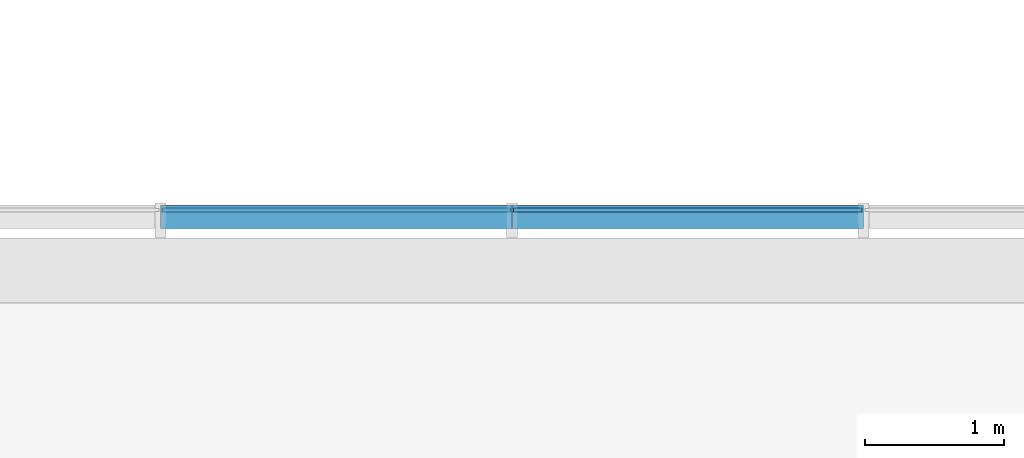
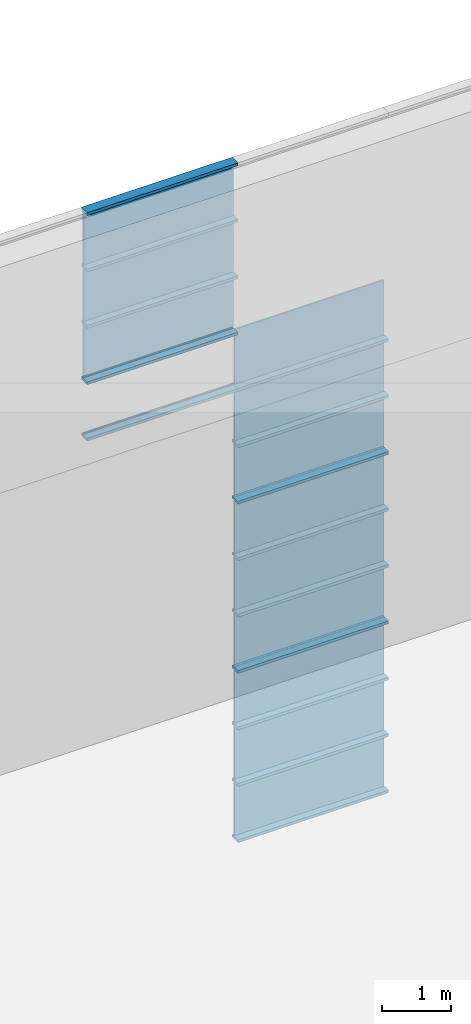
# One storey, part 47 of 105: 29 building element parts, 4 elements without a shape of their own.
"""IFC4 building model written with IfcOpenShell, lengths in millimetres."""

from ifc_helpers import new_model, entity, si_unit, converted_unit, derived_unit, direction, frame, origin_with_axes, place, context, subcontext, project, spatial, triangles, material, element, aggregate, save


model = new_model("IFC4")

# Units and contexts
model_context = context("Model", 3, precision=1e-05, world=origin_with_axes(), true_north=direction((0.0, 1.0)))
body_context = subcontext(model_context, "Body", "Model", "MODEL_VIEW")
ifc_project = project(units=[si_unit("LENGTHUNIT", "METRE", prefix="MILLI"), si_unit("AREAUNIT", "SQUARE_METRE"), si_unit("VOLUMEUNIT", "CUBIC_METRE"), converted_unit("PLANEANGLEUNIT", "DEGREE", entity("IfcLengthMeasure", 0.017453), si_unit("PLANEANGLEUNIT", "RADIAN"), dimensions=[0, 0, 0, 0, 0, 0, 0]), si_unit("SOLIDANGLEUNIT", "STERADIAN"), si_unit("MASSUNIT", "GRAM"), si_unit("TIMEUNIT", "SECOND"), si_unit("THERMODYNAMICTEMPERATUREUNIT", "DEGREE_CELSIUS"), si_unit("LUMINOUSINTENSITYUNIT", "LUMEN"), si_unit("POWERUNIT", "WATT"), derived_unit("THERMALTRANSMITTANCEUNIT", [(si_unit("POWERUNIT", "WATT"), 1), (si_unit("THERMODYNAMICTEMPERATUREUNIT", "KELVIN"), -1), (si_unit("AREAUNIT", "SQUARE_METRE"), -1)])], contexts=[model_context])

# Site, building, storey
site_placement = place(None, origin_with_axes())
site = spatial("IfcSite", under=ifc_project, at=site_placement, Name="Default Site", CompositionType="ELEMENT")
building_placement = place(site_placement, origin_with_axes())
building = spatial("IfcBuilding", under=site, at=building_placement, Name="Default Building", CompositionType="ELEMENT")
storey_placement = place(building_placement, origin_with_axes())
storey = spatial("IfcBuildingStorey", under=building, at=storey_placement, Name="OG - Story", CompositionType="ELEMENT", Elevation=0.0)

# Curtain wall, building element parts
curtain_wall_1_placement = place(storey_placement, origin_with_axes())
curtain_wall_1 = element("IfcCurtainWall", 1, at=curtain_wall_1_placement, inside=storey, Name="Fassade-004", PredefinedType="NOTDEFINED")
ifc_material_1 = material(Name="Normalglas")
building_element_part_1_placement = place(curtain_wall_1_placement, frame((33014.549222, -4389.262838, 0.0), z_axis=(0.0, 0.0, 1.0), x_axis=(1.0, 0.0, 0.0)))
building_element_part_1 = element("IfcBuildingElementPart", 2, at=building_element_part_1_placement, material=ifc_material_1, Name="Normalglas", PredefinedType="NOTDEFINED", context=body_context, shape_type="Tessellation", body=[
    triangles([(21463.684, -14.999, 995.0), (21463.684, 15.0, 995.0), (18957.368, 15.0, 995.0), (18957.368, -14.999, 995.0), (21463.684, -14.999, 5.0), (21463.684, 15.0, 5.0), (18957.368, 15.0, 5.0), (18957.368, -14.999, 5.0)], [[1, 2, 3], [1, 3, 4], [5, 6, 2], [5, 2, 1], [2, 6, 7], [2, 7, 3], [4, 3, 7], [4, 7, 8], [1, 4, 8], [1, 8, 5], [8, 7, 6], [8, 6, 5]], closed=False),
])
building_element_part_2_placement = place(curtain_wall_1_placement, frame((33014.549222, -4389.262838, 0.0), z_axis=(0.0, 0.0, 1.0), x_axis=(1.0, 0.0, 0.0)))
building_element_part_2 = element("IfcBuildingElementPart", 3, at=building_element_part_2_placement, material=ifc_material_1, Name="Normalglas", PredefinedType="NOTDEFINED", context=body_context, shape_type="Tessellation", body=[
    triangles([(21463.684, -14.999, 1995.0), (21463.684, 15.0, 1995.0), (18957.368, 15.0, 1995.0), (18957.368, -14.999, 1995.0), (21463.684, -14.999, 1005.0), (21463.684, 15.0, 1005.0), (18957.368, 15.0, 1005.0), (18957.368, -14.999, 1005.0)], [[1, 2, 3], [1, 3, 4], [5, 6, 2], [5, 2, 1], [2, 6, 7], [2, 7, 3], [4, 3, 7], [4, 7, 8], [1, 4, 8], [1, 8, 5], [8, 7, 6], [8, 6, 5]], closed=False),
])
building_element_part_3_placement = place(curtain_wall_1_placement, frame((33014.549222, -4389.262838, 0.0), z_axis=(0.0, 0.0, 1.0), x_axis=(1.0, 0.0, 0.0)))
building_element_part_3 = element("IfcBuildingElementPart", 4, at=building_element_part_3_placement, material=ifc_material_1, Name="Normalglas", PredefinedType="NOTDEFINED", context=body_context, shape_type="Tessellation", body=[
    triangles([(21463.684, -14.999, 2995.0), (21463.684, 15.0, 2995.0), (18957.368, 15.0, 2995.0), (18957.368, -14.999, 2995.0), (21463.684, -14.999, 2005.0), (21463.684, 15.0, 2005.0), (18957.368, 15.0, 2005.0), (18957.368, -14.999, 2005.0)], [[1, 2, 3], [1, 3, 4], [5, 6, 2], [5, 2, 1], [2, 6, 7], [2, 7, 3], [4, 3, 7], [4, 7, 8], [1, 4, 8], [1, 8, 5], [8, 7, 6], [8, 6, 5]], closed=False),
])
ifc_material_2 = material(Name="Blech")
building_element_part_4_placement = place(curtain_wall_1_placement, frame((33014.549222, -4389.262838, 0.0), z_axis=(0.0, 0.0, 1.0), x_axis=(1.0, 0.0, 0.0)))
building_element_part_4 = element("IfcBuildingElementPart", 5, at=building_element_part_4_placement, material=ifc_material_2, Name="Blech", PredefinedType="NOTDEFINED", context=body_context, shape_type="Tessellation", body=[
    triangles([(21473.684, 35.0, -24.999), (21473.684, 35.0, 25.0), (21473.684, 15.0, 25.0), (21473.684, 15.0, 5.0), (21473.684, -14.999, 5.0), (21473.684, -132.999, 25.0), (21473.684, -132.999, -24.999), (21473.684, -14.999, 25.0), (18947.368, -14.999, 5.0), (18947.368, -14.999, 25.0), (18947.368, -132.999, 25.0), (18947.368, -132.999, -24.999), (18947.368, 35.0, -24.999), (18947.368, 35.0, 25.0), (18947.368, 15.0, 25.0), (18947.368, 15.0, 5.0)], [[1, 2, 3], [1, 3, 4], [1, 4, 5], [1, 5, 6], [1, 6, 7], [8, 6, 5], [5, 9, 10], [5, 10, 8], [10, 11, 6], [10, 6, 8], [11, 12, 7], [11, 7, 6], [12, 13, 1], [12, 1, 7], [13, 14, 2], [13, 2, 1], [3, 2, 14], [3, 14, 15], [15, 16, 4], [15, 4, 3], [4, 16, 9], [4, 9, 5], [15, 16, 13], [13, 16, 9], [13, 9, 11], [11, 9, 10], [13, 11, 12], [15, 13, 14]], closed=False),
])
building_element_part_5_placement = place(curtain_wall_1_placement, frame((33014.549222, -4389.262838, 0.0), z_axis=(0.0, 0.0, 1.0), x_axis=(1.0, 0.0, 0.0)))
building_element_part_5 = element("IfcBuildingElementPart", 6, at=building_element_part_5_placement, material=ifc_material_2, Name="Blech", PredefinedType="NOTDEFINED", context=body_context, shape_type="Tessellation", body=[
    triangles([(21473.684, 35.0, 975.0), (21473.684, 15.0, 975.0), (21473.684, 35.0, 1025.0), (21473.684, 15.0, 995.0), (21473.684, 15.0, 1005.0), (21473.684, -14.999, 995.0), (21473.684, -14.999, 1005.0), (21473.684, -14.999, 1025.0), (21473.684, -14.999, 975.0), (21473.684, -132.999, 975.0), (21473.684, -132.999, 1025.0), (21473.684, 15.0, 1025.0), (18947.368, -14.999, 995.0), (18947.368, 15.0, 995.0), (18947.368, 15.0, 975.0), (18947.368, 35.0, 975.0), (18947.368, 35.0, 1025.0), (18947.368, 15.0, 1025.0), (18947.368, 15.0, 1005.0), (18947.368, -14.999, 1005.0), (18947.368, -14.999, 1025.0), (18947.368, -132.999, 1025.0), (18947.368, -132.999, 975.0), (18947.368, -14.999, 975.0)], [[1, 2, 3], [3, 2, 4], [3, 4, 5], [5, 4, 6], [5, 6, 7], [8, 9, 10], [8, 10, 11], [3, 5, 12], [6, 13, 14], [6, 14, 4], [4, 14, 15], [4, 15, 2], [15, 16, 1], [15, 1, 2], [1, 16, 17], [1, 17, 3], [18, 12, 3], [18, 3, 17], [12, 18, 19], [12, 19, 5], [7, 5, 19], [7, 19, 20], [8, 7, 20], [8, 20, 21], [8, 21, 22], [8, 22, 11], [11, 22, 23], [11, 23, 10], [9, 10, 23], [9, 23, 24], [9, 24, 13], [9, 13, 6], [17, 18, 16], [16, 18, 19], [16, 19, 14], [14, 19, 20], [14, 20, 13], [24, 21, 22], [24, 22, 23], [16, 14, 15]], closed=False),
])
building_element_part_6_placement = place(curtain_wall_1_placement, frame((33014.549222, -4389.262838, 0.0), z_axis=(0.0, 0.0, 1.0), x_axis=(1.0, 0.0, 0.0)))
building_element_part_6 = element("IfcBuildingElementPart", 7, at=building_element_part_6_placement, material=ifc_material_2, Name="Blech", PredefinedType="NOTDEFINED", context=body_context, shape_type="Tessellation", body=[
    triangles([(21473.684, 35.0, 1975.0), (21473.684, 15.0, 1975.0), (21473.684, 35.0, 2025.0), (21473.684, 15.0, 1995.0), (21473.684, 15.0, 2005.0), (21473.684, -14.999, 1995.0), (21473.684, -14.999, 2005.0), (21473.684, -14.999, 2025.0), (21473.684, -14.999, 1975.0), (21473.684, -132.999, 1975.0), (21473.684, -132.999, 2025.0), (21473.684, 15.0, 2025.0), (18947.368, -14.999, 1995.0), (18947.368, 15.0, 1995.0), (18947.368, 15.0, 1975.0), (18947.368, 35.0, 1975.0), (18947.368, 35.0, 2025.0), (18947.368, 15.0, 2025.0), (18947.368, 15.0, 2005.0), (18947.368, -14.999, 2005.0), (18947.368, -14.999, 2025.0), (18947.368, -132.999, 2025.0), (18947.368, -132.999, 1975.0), (18947.368, -14.999, 1975.0)], [[1, 2, 3], [3, 2, 4], [3, 4, 5], [5, 4, 6], [5, 6, 7], [8, 9, 10], [8, 10, 11], [3, 5, 12], [6, 13, 14], [6, 14, 4], [4, 14, 15], [4, 15, 2], [15, 16, 1], [15, 1, 2], [1, 16, 17], [1, 17, 3], [18, 12, 3], [18, 3, 17], [12, 18, 19], [12, 19, 5], [7, 5, 19], [7, 19, 20], [8, 7, 20], [8, 20, 21], [8, 21, 22], [8, 22, 11], [11, 22, 23], [11, 23, 10], [9, 10, 23], [9, 23, 24], [9, 24, 13], [9, 13, 6], [17, 18, 16], [16, 18, 19], [16, 19, 14], [14, 19, 20], [14, 20, 13], [24, 21, 22], [24, 22, 23], [16, 14, 15]], closed=False),
])
building_element_part_7_placement = place(curtain_wall_1_placement, frame((33014.549222, -4389.262838, 0.0), z_axis=(0.0, 0.0, 1.0), x_axis=(1.0, 0.0, 0.0)))
building_element_part_7 = element("IfcBuildingElementPart", 8, at=building_element_part_7_placement, material=ifc_material_2, Name="Blech", PredefinedType="NOTDEFINED", context=body_context, shape_type="Tessellation", body=[
    triangles([(21473.684, 15.0, 2975.0), (21473.684, 15.0, 2995.0), (21473.684, 35.0, 3025.0), (21473.684, -14.999, 2995.0), (21473.684, -132.999, 2975.0), (21473.684, -14.999, 2975.0), (21473.684, -132.999, 3025.0), (21473.684, 35.0, 2975.0), (18947.368, -14.999, 2995.0), (18947.368, 15.0, 2995.0), (18947.368, 15.0, 2975.0), (18947.368, 35.0, 2975.0), (18947.368, 35.0, 3025.0), (18947.368, -132.999, 3025.0), (18947.368, -132.999, 2975.0), (18947.368, -14.999, 2975.0)], [[1, 2, 3], [3, 2, 4], [3, 4, 5], [5, 4, 6], [3, 5, 7], [1, 3, 8], [2, 4, 9], [2, 9, 10], [11, 1, 2], [11, 2, 10], [1, 11, 12], [1, 12, 8], [13, 3, 8], [13, 8, 12], [14, 7, 3], [14, 3, 13], [15, 5, 7], [15, 7, 14], [16, 6, 5], [16, 5, 15], [4, 6, 16], [4, 16, 9], [13, 12, 11], [13, 11, 10], [13, 10, 9], [13, 9, 15], [13, 15, 14], [16, 15, 9]], closed=False),
])
aggregate(curtain_wall_1, [building_element_part_1, building_element_part_2, building_element_part_3, building_element_part_4, building_element_part_5, building_element_part_6, building_element_part_7])

curtain_wall_2_placement = place(storey_placement, origin_with_axes())
curtain_wall_2 = element("IfcCurtainWall", 9, at=curtain_wall_2_placement, inside=storey, Name="Fassade-004", PredefinedType="NOTDEFINED")
building_element_part_8_placement = place(curtain_wall_2_placement, frame((33014.549222, -4389.262838, 3000.0), z_axis=(0.0, 0.0, 1.0), x_axis=(1.0, 0.0, 0.0)))
building_element_part_8 = element("IfcBuildingElementPart", 10, at=building_element_part_8_placement, material=ifc_material_1, Name="Normalglas", PredefinedType="NOTDEFINED", context=body_context, shape_type="Tessellation", body=[
    triangles([(21463.684, -14.999, 995.0), (21463.684, 15.0, 995.0), (18957.368, 15.0, 995.0), (18957.368, -14.999, 995.0), (21463.684, -14.999, 5.0), (21463.684, 15.0, 5.0), (18957.368, 15.0, 5.0), (18957.368, -14.999, 5.0)], [[1, 2, 3], [1, 3, 4], [5, 6, 2], [5, 2, 1], [2, 6, 7], [2, 7, 3], [4, 3, 7], [4, 7, 8], [1, 4, 8], [1, 8, 5], [8, 7, 6], [8, 6, 5]], closed=False),
])
building_element_part_9_placement = place(curtain_wall_2_placement, frame((33014.549222, -4389.262838, 3000.0), z_axis=(0.0, 0.0, 1.0), x_axis=(1.0, 0.0, 0.0)))
building_element_part_9 = element("IfcBuildingElementPart", 11, at=building_element_part_9_placement, material=ifc_material_1, Name="Normalglas", PredefinedType="NOTDEFINED", context=body_context, shape_type="Tessellation", body=[
    triangles([(21463.684, -14.999, 1995.0), (21463.684, 15.0, 1995.0), (18957.368, 15.0, 1995.0), (18957.368, -14.999, 1995.0), (21463.684, -14.999, 1005.0), (21463.684, 15.0, 1005.0), (18957.368, 15.0, 1005.0), (18957.368, -14.999, 1005.0)], [[1, 2, 3], [1, 3, 4], [5, 6, 2], [5, 2, 1], [2, 6, 7], [2, 7, 3], [4, 3, 7], [4, 7, 8], [1, 4, 8], [1, 8, 5], [8, 7, 6], [8, 6, 5]], closed=False),
])
building_element_part_10_placement = place(curtain_wall_2_placement, frame((33014.549222, -4389.262838, 3000.0), z_axis=(0.0, 0.0, 1.0), x_axis=(1.0, 0.0, 0.0)))
building_element_part_10 = element("IfcBuildingElementPart", 12, at=building_element_part_10_placement, material=ifc_material_1, Name="Normalglas", PredefinedType="NOTDEFINED", context=body_context, shape_type="Tessellation", body=[
    triangles([(21463.684, -14.999, 2995.0), (21463.684, 15.0, 2995.0), (18957.368, 15.0, 2995.0), (18957.368, -14.999, 2995.0), (21463.684, -14.999, 2005.0), (21463.684, 15.0, 2005.0), (18957.368, 15.0, 2005.0), (18957.368, -14.999, 2005.0)], [[1, 2, 3], [1, 3, 4], [5, 6, 2], [5, 2, 1], [2, 6, 7], [2, 7, 3], [4, 3, 7], [4, 7, 8], [1, 4, 8], [1, 8, 5], [8, 7, 6], [8, 6, 5]], closed=False),
])
building_element_part_11_placement = place(curtain_wall_2_placement, frame((33014.549222, -4389.262838, 3000.0), z_axis=(0.0, 0.0, 1.0), x_axis=(1.0, 0.0, 0.0)))
building_element_part_11 = element("IfcBuildingElementPart", 13, at=building_element_part_11_placement, material=ifc_material_2, Name="Blech", PredefinedType="NOTDEFINED", context=body_context, shape_type="Tessellation", body=[
    triangles([(21473.684, 35.0, -24.999), (21473.684, 35.0, 25.0), (21473.684, 15.0, 25.0), (21473.684, 15.0, 5.0), (21473.684, -14.999, 5.0), (21473.684, -132.999, 25.0), (21473.684, -132.999, -24.999), (21473.684, -14.999, 25.0), (18947.368, -14.999, 5.0), (18947.368, -14.999, 25.0), (18947.368, -132.999, 25.0), (18947.368, -132.999, -24.999), (18947.368, 35.0, -24.999), (18947.368, 35.0, 25.0), (18947.368, 15.0, 25.0), (18947.368, 15.0, 5.0)], [[1, 2, 3], [1, 3, 4], [1, 4, 5], [1, 5, 6], [1, 6, 7], [8, 6, 5], [5, 9, 10], [5, 10, 8], [10, 11, 6], [10, 6, 8], [11, 12, 7], [11, 7, 6], [12, 13, 1], [12, 1, 7], [13, 14, 2], [13, 2, 1], [3, 2, 14], [3, 14, 15], [15, 16, 4], [15, 4, 3], [4, 16, 9], [4, 9, 5], [15, 16, 13], [13, 16, 9], [13, 9, 11], [11, 9, 10], [13, 11, 12], [15, 13, 14]], closed=False),
])
building_element_part_12_placement = place(curtain_wall_2_placement, frame((33014.549222, -4389.262838, 3000.0), z_axis=(0.0, 0.0, 1.0), x_axis=(1.0, 0.0, 0.0)))
building_element_part_12 = element("IfcBuildingElementPart", 14, at=building_element_part_12_placement, material=ifc_material_2, Name="Blech", PredefinedType="NOTDEFINED", context=body_context, shape_type="Tessellation", body=[
    triangles([(21473.684, 35.0, 975.0), (21473.684, 15.0, 975.0), (21473.684, 35.0, 1025.0), (21473.684, 15.0, 995.0), (21473.684, 15.0, 1005.0), (21473.684, -14.999, 995.0), (21473.684, -14.999, 1005.0), (21473.684, -14.999, 1025.0), (21473.684, -14.999, 975.0), (21473.684, -132.999, 975.0), (21473.684, -132.999, 1025.0), (21473.684, 15.0, 1025.0), (18947.368, -14.999, 995.0), (18947.368, 15.0, 995.0), (18947.368, 15.0, 975.0), (18947.368, 35.0, 975.0), (18947.368, 35.0, 1025.0), (18947.368, 15.0, 1025.0), (18947.368, 15.0, 1005.0), (18947.368, -14.999, 1005.0), (18947.368, -14.999, 1025.0), (18947.368, -132.999, 1025.0), (18947.368, -132.999, 975.0), (18947.368, -14.999, 975.0)], [[1, 2, 3], [3, 2, 4], [3, 4, 5], [5, 4, 6], [5, 6, 7], [8, 9, 10], [8, 10, 11], [3, 5, 12], [6, 13, 14], [6, 14, 4], [4, 14, 15], [4, 15, 2], [15, 16, 1], [15, 1, 2], [1, 16, 17], [1, 17, 3], [18, 12, 3], [18, 3, 17], [12, 18, 19], [12, 19, 5], [7, 5, 19], [7, 19, 20], [8, 7, 20], [8, 20, 21], [8, 21, 22], [8, 22, 11], [11, 22, 23], [11, 23, 10], [9, 10, 23], [9, 23, 24], [9, 24, 13], [9, 13, 6], [17, 18, 16], [16, 18, 19], [16, 19, 14], [14, 19, 20], [14, 20, 13], [24, 21, 22], [24, 22, 23], [16, 14, 15]], closed=False),
])
building_element_part_13_placement = place(curtain_wall_2_placement, frame((33014.549222, -4389.262838, 3000.0), z_axis=(0.0, 0.0, 1.0), x_axis=(1.0, 0.0, 0.0)))
building_element_part_13 = element("IfcBuildingElementPart", 15, at=building_element_part_13_placement, material=ifc_material_2, Name="Blech", PredefinedType="NOTDEFINED", context=body_context, shape_type="Tessellation", body=[
    triangles([(21473.684, 35.0, 1975.0), (21473.684, 15.0, 1975.0), (21473.684, 35.0, 2025.0), (21473.684, 15.0, 1995.0), (21473.684, 15.0, 2005.0), (21473.684, -14.999, 1995.0), (21473.684, -14.999, 2005.0), (21473.684, -14.999, 2025.0), (21473.684, -14.999, 1975.0), (21473.684, -132.999, 1975.0), (21473.684, -132.999, 2025.0), (21473.684, 15.0, 2025.0), (18947.368, -14.999, 1995.0), (18947.368, 15.0, 1995.0), (18947.368, 15.0, 1975.0), (18947.368, 35.0, 1975.0), (18947.368, 35.0, 2025.0), (18947.368, 15.0, 2025.0), (18947.368, 15.0, 2005.0), (18947.368, -14.999, 2005.0), (18947.368, -14.999, 2025.0), (18947.368, -132.999, 2025.0), (18947.368, -132.999, 1975.0), (18947.368, -14.999, 1975.0)], [[1, 2, 3], [3, 2, 4], [3, 4, 5], [5, 4, 6], [5, 6, 7], [8, 9, 10], [8, 10, 11], [3, 5, 12], [6, 13, 14], [6, 14, 4], [4, 14, 15], [4, 15, 2], [15, 16, 1], [15, 1, 2], [1, 16, 17], [1, 17, 3], [18, 12, 3], [18, 3, 17], [12, 18, 19], [12, 19, 5], [7, 5, 19], [7, 19, 20], [8, 7, 20], [8, 20, 21], [8, 21, 22], [8, 22, 11], [11, 22, 23], [11, 23, 10], [9, 10, 23], [9, 23, 24], [9, 24, 13], [9, 13, 6], [17, 18, 16], [16, 18, 19], [16, 19, 14], [14, 19, 20], [14, 20, 13], [24, 21, 22], [24, 22, 23], [16, 14, 15]], closed=False),
])
building_element_part_14_placement = place(curtain_wall_2_placement, frame((33014.549222, -4389.262838, 3000.0), z_axis=(0.0, 0.0, 1.0), x_axis=(1.0, 0.0, 0.0)))
building_element_part_14 = element("IfcBuildingElementPart", 16, at=building_element_part_14_placement, material=ifc_material_2, Name="Blech", PredefinedType="NOTDEFINED", context=body_context, shape_type="Tessellation", body=[
    triangles([(21473.684, 15.0, 2975.0), (21473.684, 15.0, 2995.0), (21473.684, 35.0, 3025.0), (21473.684, -14.999, 2995.0), (21473.684, -132.999, 2975.0), (21473.684, -14.999, 2975.0), (21473.684, -132.999, 3025.0), (21473.684, 35.0, 2975.0), (18947.368, -14.999, 2995.0), (18947.368, 15.0, 2995.0), (18947.368, 15.0, 2975.0), (18947.368, 35.0, 2975.0), (18947.368, 35.0, 3025.0), (18947.368, -132.999, 3025.0), (18947.368, -132.999, 2975.0), (18947.368, -14.999, 2975.0)], [[1, 2, 3], [3, 2, 4], [3, 4, 5], [5, 4, 6], [3, 5, 7], [1, 3, 8], [2, 4, 9], [2, 9, 10], [11, 1, 2], [11, 2, 10], [1, 11, 12], [1, 12, 8], [13, 3, 8], [13, 8, 12], [14, 7, 3], [14, 3, 13], [15, 5, 7], [15, 7, 14], [16, 6, 5], [16, 5, 15], [4, 6, 16], [4, 16, 9], [13, 12, 11], [13, 11, 10], [13, 10, 9], [13, 9, 15], [13, 15, 14], [16, 15, 9]], closed=False),
])
aggregate(curtain_wall_2, [building_element_part_8, building_element_part_9, building_element_part_10, building_element_part_11, building_element_part_12, building_element_part_13, building_element_part_14])

curtain_wall_3_placement = place(storey_placement, origin_with_axes())
curtain_wall_3 = element("IfcCurtainWall", 17, at=curtain_wall_3_placement, inside=storey, Name="Fassade-004", PredefinedType="NOTDEFINED")
building_element_part_15_placement = place(curtain_wall_3_placement, frame((33014.549222, -4389.262838, 6000.0), z_axis=(0.0, 0.0, 1.0), x_axis=(1.0, 0.0, 0.0)))
building_element_part_15 = element("IfcBuildingElementPart", 18, at=building_element_part_15_placement, material=ifc_material_1, Name="Normalglas", PredefinedType="NOTDEFINED", context=body_context, shape_type="Tessellation", body=[
    triangles([(21463.684, -14.999, 995.0), (21463.684, 15.0, 995.0), (18957.368, 15.0, 995.0), (18957.368, -14.999, 995.0), (21463.684, -14.999, 5.0), (21463.684, 15.0, 5.0), (18957.368, 15.0, 5.0), (18957.368, -14.999, 5.0)], [[1, 2, 3], [1, 3, 4], [5, 6, 2], [5, 2, 1], [2, 6, 7], [2, 7, 3], [4, 3, 7], [4, 7, 8], [1, 4, 8], [1, 8, 5], [8, 7, 6], [8, 6, 5]], closed=False),
])
building_element_part_16_placement = place(curtain_wall_3_placement, frame((33014.549222, -4389.262838, 6000.0), z_axis=(0.0, 0.0, 1.0), x_axis=(1.0, 0.0, 0.0)))
building_element_part_16 = element("IfcBuildingElementPart", 19, at=building_element_part_16_placement, material=ifc_material_1, Name="Normalglas", PredefinedType="NOTDEFINED", context=body_context, shape_type="Tessellation", body=[
    triangles([(21463.684, -14.999, 1995.0), (21463.684, 15.0, 1995.0), (18957.368, 15.0, 1995.0), (18957.368, -14.999, 1995.0), (21463.684, -14.999, 1005.0), (21463.684, 15.0, 1005.0), (18957.368, 15.0, 1005.0), (18957.368, -14.999, 1005.0)], [[1, 2, 3], [1, 3, 4], [5, 6, 2], [5, 2, 1], [2, 6, 7], [2, 7, 3], [4, 3, 7], [4, 7, 8], [1, 4, 8], [1, 8, 5], [8, 7, 6], [8, 6, 5]], closed=False),
])
building_element_part_17_placement = place(curtain_wall_3_placement, frame((33014.549222, -4389.262838, 6000.0), z_axis=(0.0, 0.0, 1.0), x_axis=(1.0, 0.0, 0.0)))
building_element_part_17 = element("IfcBuildingElementPart", 20, at=building_element_part_17_placement, material=ifc_material_1, Name="Normalglas", PredefinedType="NOTDEFINED", context=body_context, shape_type="Tessellation", body=[
    triangles([(21463.684, -14.999, 2995.0), (21463.684, 15.0, 2995.0), (18957.368, 15.0, 2995.0), (18957.368, -14.999, 2995.0), (21463.684, -14.999, 2005.0), (21463.684, 15.0, 2005.0), (18957.368, 15.0, 2005.0), (18957.368, -14.999, 2005.0)], [[1, 2, 3], [1, 3, 4], [5, 6, 2], [5, 2, 1], [2, 6, 7], [2, 7, 3], [4, 3, 7], [4, 7, 8], [1, 4, 8], [1, 8, 5], [8, 7, 6], [8, 6, 5]], closed=False),
])
building_element_part_18_placement = place(curtain_wall_3_placement, frame((33014.549222, -4389.262838, 6000.0), z_axis=(0.0, 0.0, 1.0), x_axis=(1.0, 0.0, 0.0)))
building_element_part_18 = element("IfcBuildingElementPart", 21, at=building_element_part_18_placement, material=ifc_material_2, Name="Blech", PredefinedType="NOTDEFINED", context=body_context, shape_type="Tessellation", body=[
    triangles([(21473.684, 35.0, -24.999), (21473.684, 35.0, 25.0), (21473.684, 15.0, 25.0), (21473.684, 15.0, 5.0), (21473.684, -14.999, 5.0), (21473.684, -132.999, 25.0), (21473.684, -132.999, -24.999), (21473.684, -14.999, 25.0), (18947.368, -14.999, 5.0), (18947.368, -14.999, 25.0), (18947.368, -132.999, 25.0), (18947.368, -132.999, -24.999), (18947.368, 35.0, -24.999), (18947.368, 35.0, 25.0), (18947.368, 15.0, 25.0), (18947.368, 15.0, 5.0)], [[1, 2, 3], [1, 3, 4], [1, 4, 5], [1, 5, 6], [1, 6, 7], [8, 6, 5], [5, 9, 10], [5, 10, 8], [10, 11, 6], [10, 6, 8], [11, 12, 7], [11, 7, 6], [12, 13, 1], [12, 1, 7], [13, 14, 2], [13, 2, 1], [3, 2, 14], [3, 14, 15], [15, 16, 4], [15, 4, 3], [4, 16, 9], [4, 9, 5], [15, 16, 13], [13, 16, 9], [13, 9, 11], [11, 9, 10], [13, 11, 12], [15, 13, 14]], closed=False),
])
building_element_part_19_placement = place(curtain_wall_3_placement, frame((33014.549222, -4389.262838, 6000.0), z_axis=(0.0, 0.0, 1.0), x_axis=(1.0, 0.0, 0.0)))
building_element_part_19 = element("IfcBuildingElementPart", 22, at=building_element_part_19_placement, material=ifc_material_2, Name="Blech", PredefinedType="NOTDEFINED", context=body_context, shape_type="Tessellation", body=[
    triangles([(21473.684, 35.0, 975.0), (21473.684, 15.0, 975.0), (21473.684, 35.0, 1025.0), (21473.684, 15.0, 995.0), (21473.684, 15.0, 1005.0), (21473.684, -14.999, 995.0), (21473.684, -14.999, 1005.0), (21473.684, -14.999, 1025.0), (21473.684, -14.999, 975.0), (21473.684, -132.999, 975.0), (21473.684, -132.999, 1025.0), (21473.684, 15.0, 1025.0), (18947.368, -14.999, 995.0), (18947.368, 15.0, 995.0), (18947.368, 15.0, 975.0), (18947.368, 35.0, 975.0), (18947.368, 35.0, 1025.0), (18947.368, 15.0, 1025.0), (18947.368, 15.0, 1005.0), (18947.368, -14.999, 1005.0), (18947.368, -14.999, 1025.0), (18947.368, -132.999, 1025.0), (18947.368, -132.999, 975.0), (18947.368, -14.999, 975.0)], [[1, 2, 3], [3, 2, 4], [3, 4, 5], [5, 4, 6], [5, 6, 7], [8, 9, 10], [8, 10, 11], [3, 5, 12], [6, 13, 14], [6, 14, 4], [4, 14, 15], [4, 15, 2], [15, 16, 1], [15, 1, 2], [1, 16, 17], [1, 17, 3], [18, 12, 3], [18, 3, 17], [12, 18, 19], [12, 19, 5], [7, 5, 19], [7, 19, 20], [8, 7, 20], [8, 20, 21], [8, 21, 22], [8, 22, 11], [11, 22, 23], [11, 23, 10], [9, 10, 23], [9, 23, 24], [9, 24, 13], [9, 13, 6], [17, 18, 16], [16, 18, 19], [16, 19, 14], [14, 19, 20], [14, 20, 13], [24, 21, 22], [24, 22, 23], [16, 14, 15]], closed=False),
])
building_element_part_20_placement = place(curtain_wall_3_placement, frame((33014.549222, -4389.262838, 6000.0), z_axis=(0.0, 0.0, 1.0), x_axis=(1.0, 0.0, 0.0)))
building_element_part_20 = element("IfcBuildingElementPart", 23, at=building_element_part_20_placement, material=ifc_material_2, Name="Blech", PredefinedType="NOTDEFINED", context=body_context, shape_type="Tessellation", body=[
    triangles([(18947.368, 35.0, 1975.0), (18947.368, 15.0, 1975.0), (18947.368, 35.0, 2025.0), (18947.368, 15.0, 1995.0), (18947.368, 15.0, 2005.0), (18947.368, -14.999, 1995.0), (18947.368, -14.999, 2005.0), (18947.368, -14.999, 2025.0), (18947.368, -14.999, 1975.0), (18947.368, -132.999, 1975.0), (18947.368, -132.999, 2025.0), (18947.368, 15.0, 2025.0), (16421.053, -14.999, 1995.0), (16421.053, 15.0, 1995.0), (16421.053, 15.0, 1975.0), (16421.053, 35.0, 1975.0), (16421.053, 35.0, 2025.0), (16421.053, 15.0, 2025.0), (16421.053, 15.0, 2005.0), (16421.053, -14.999, 2005.0), (16421.053, -14.999, 2025.0), (16421.053, -132.999, 2025.0), (16421.053, -132.999, 1975.0), (16421.053, -14.999, 1975.0)], [[1, 2, 3], [3, 2, 4], [3, 4, 5], [5, 4, 6], [5, 6, 7], [8, 9, 10], [8, 10, 11], [3, 5, 12], [6, 13, 14], [6, 14, 4], [4, 14, 15], [4, 15, 2], [15, 16, 1], [15, 1, 2], [1, 16, 17], [1, 17, 3], [18, 12, 3], [18, 3, 17], [12, 18, 19], [12, 19, 5], [7, 5, 19], [7, 19, 20], [8, 7, 20], [8, 20, 21], [8, 21, 22], [8, 22, 11], [11, 22, 23], [11, 23, 10], [9, 10, 23], [9, 23, 24], [9, 24, 13], [9, 13, 6], [17, 18, 16], [16, 18, 19], [16, 19, 14], [14, 19, 20], [14, 20, 13], [24, 21, 22], [24, 22, 23], [16, 14, 15]], closed=False),
])
building_element_part_21_placement = place(curtain_wall_3_placement, frame((33014.549222, -4389.262838, 6000.0), z_axis=(0.0, 0.0, 1.0), x_axis=(1.0, 0.0, 0.0)))
building_element_part_21 = element("IfcBuildingElementPart", 24, at=building_element_part_21_placement, material=ifc_material_2, Name="Blech", PredefinedType="NOTDEFINED", context=body_context, shape_type="Tessellation", body=[
    triangles([(18947.368, 15.0, 2975.0), (18947.368, 15.0, 2995.0), (18947.368, 35.0, 3025.0), (18947.368, -14.999, 2995.0), (18947.368, -132.999, 2975.0), (18947.368, -14.999, 2975.0), (18947.368, -132.999, 3025.0), (18947.368, 35.0, 2975.0), (16421.053, -14.999, 2995.0), (16421.053, 15.0, 2995.0), (16421.053, 15.0, 2975.0), (16421.053, 35.0, 2975.0), (16421.053, 35.0, 3025.0), (16421.053, -132.999, 3025.0), (16421.053, -132.999, 2975.0), (16421.053, -14.999, 2975.0)], [[1, 2, 3], [3, 2, 4], [3, 4, 5], [5, 4, 6], [3, 5, 7], [1, 3, 8], [2, 4, 9], [2, 9, 10], [11, 1, 2], [11, 2, 10], [1, 11, 12], [1, 12, 8], [13, 3, 8], [13, 8, 12], [14, 7, 3], [14, 3, 13], [15, 5, 7], [15, 7, 14], [16, 6, 5], [16, 5, 15], [4, 6, 16], [4, 16, 9], [13, 12, 11], [13, 11, 10], [13, 10, 9], [13, 9, 15], [13, 15, 14], [16, 15, 9]], closed=False),
])
building_element_part_22_placement = place(curtain_wall_3_placement, frame((33014.549222, -4389.262838, 6000.0), z_axis=(0.0, 0.0, 1.0), x_axis=(1.0, 0.0, 0.0)))
building_element_part_22 = element("IfcBuildingElementPart", 25, at=building_element_part_22_placement, material=ifc_material_2, Name="Blech", PredefinedType="NOTDEFINED", context=body_context, shape_type="Tessellation", body=[
    triangles([(21473.684, 35.0, 1975.0), (21473.684, 15.0, 1975.0), (21473.684, 35.0, 2025.0), (21473.684, 15.0, 1995.0), (21473.684, 15.0, 2005.0), (21473.684, -14.999, 1995.0), (21473.684, -14.999, 2005.0), (21473.684, -14.999, 2025.0), (21473.684, -14.999, 1975.0), (21473.684, -132.999, 1975.0), (21473.684, -132.999, 2025.0), (21473.684, 15.0, 2025.0), (18947.368, -14.999, 1995.0), (18947.368, 15.0, 1995.0), (18947.368, 15.0, 1975.0), (18947.368, 35.0, 1975.0), (18947.368, 35.0, 2025.0), (18947.368, 15.0, 2025.0), (18947.368, 15.0, 2005.0), (18947.368, -14.999, 2005.0), (18947.368, -14.999, 2025.0), (18947.368, -132.999, 2025.0), (18947.368, -132.999, 1975.0), (18947.368, -14.999, 1975.0)], [[1, 2, 3], [3, 2, 4], [3, 4, 5], [5, 4, 6], [5, 6, 7], [8, 9, 10], [8, 10, 11], [3, 5, 12], [6, 13, 14], [6, 14, 4], [4, 14, 15], [4, 15, 2], [15, 16, 1], [15, 1, 2], [1, 16, 17], [1, 17, 3], [18, 12, 3], [18, 3, 17], [12, 18, 19], [12, 19, 5], [7, 5, 19], [7, 19, 20], [8, 7, 20], [8, 20, 21], [8, 21, 22], [8, 22, 11], [11, 22, 23], [11, 23, 10], [9, 10, 23], [9, 23, 24], [9, 24, 13], [9, 13, 6], [17, 18, 16], [16, 18, 19], [16, 19, 14], [14, 19, 20], [14, 20, 13], [24, 21, 22], [24, 22, 23], [16, 14, 15]], closed=False),
])
aggregate(curtain_wall_3, [building_element_part_15, building_element_part_16, building_element_part_17, building_element_part_18, building_element_part_19, building_element_part_20, building_element_part_21, building_element_part_22])

curtain_wall_4_placement = place(storey_placement, origin_with_axes())
curtain_wall_4 = element("IfcCurtainWall", 26, at=curtain_wall_4_placement, inside=storey, Name="Fassade-004", PredefinedType="NOTDEFINED")
building_element_part_23_placement = place(curtain_wall_4_placement, frame((33014.549222, -4389.262838, 9000.0), z_axis=(0.0, 0.0, 1.0), x_axis=(1.0, 0.0, 0.0)))
building_element_part_23 = element("IfcBuildingElementPart", 27, at=building_element_part_23_placement, material=ifc_material_1, Name="Normalglas", PredefinedType="NOTDEFINED", context=body_context, shape_type="Tessellation", body=[
    triangles([(18937.368, -14.999, 995.0), (18937.368, 15.0, 995.0), (16431.053, 15.0, 995.0), (16431.053, -14.999, 995.0), (18937.368, -14.999, 5.0), (18937.368, 15.0, 5.0), (16431.053, 15.0, 5.0), (16431.053, -14.999, 5.0)], [[1, 2, 3], [1, 3, 4], [5, 6, 2], [5, 2, 1], [2, 6, 7], [2, 7, 3], [4, 3, 7], [4, 7, 8], [1, 4, 8], [1, 8, 5], [8, 7, 6], [8, 6, 5]], closed=False),
])
building_element_part_24_placement = place(curtain_wall_4_placement, frame((33014.549222, -4389.262838, 9000.0), z_axis=(0.0, 0.0, 1.0), x_axis=(1.0, 0.0, 0.0)))
building_element_part_24 = element("IfcBuildingElementPart", 28, at=building_element_part_24_placement, material=ifc_material_1, Name="Normalglas", PredefinedType="NOTDEFINED", context=body_context, shape_type="Tessellation", body=[
    triangles([(18937.368, -14.999, 1995.0), (18937.368, 15.0, 1995.0), (16431.053, 15.0, 1995.0), (16431.053, -14.999, 1995.0), (18937.368, -14.999, 1005.0), (18937.368, 15.0, 1005.0), (16431.053, 15.0, 1005.0), (16431.053, -14.999, 1005.0)], [[1, 2, 3], [1, 3, 4], [5, 6, 2], [5, 2, 1], [2, 6, 7], [2, 7, 3], [4, 3, 7], [4, 7, 8], [1, 4, 8], [1, 8, 5], [8, 7, 6], [8, 6, 5]], closed=False),
])
building_element_part_25_placement = place(curtain_wall_4_placement, frame((33014.549222, -4389.262838, 9000.0), z_axis=(0.0, 0.0, 1.0), x_axis=(1.0, 0.0, 0.0)))
building_element_part_25 = element("IfcBuildingElementPart", 29, at=building_element_part_25_placement, material=ifc_material_1, Name="Normalglas", PredefinedType="NOTDEFINED", context=body_context, shape_type="Tessellation", body=[
    triangles([(18937.368, -14.999, 2995.0), (18937.368, 15.0, 2995.0), (16431.053, 15.0, 2995.0), (16431.053, -14.999, 2995.0), (18937.368, -14.999, 2005.0), (18937.368, 15.0, 2005.0), (16431.053, 15.0, 2005.0), (16431.053, -14.999, 2005.0)], [[1, 2, 3], [1, 3, 4], [5, 6, 2], [5, 2, 1], [2, 6, 7], [2, 7, 3], [4, 3, 7], [4, 7, 8], [1, 4, 8], [1, 8, 5], [8, 7, 6], [8, 6, 5]], closed=False),
])
building_element_part_26_placement = place(curtain_wall_4_placement, frame((33014.549222, -4389.262838, 9000.0), z_axis=(0.0, 0.0, 1.0), x_axis=(1.0, 0.0, 0.0)))
building_element_part_26 = element("IfcBuildingElementPart", 30, at=building_element_part_26_placement, material=ifc_material_2, Name="Blech", PredefinedType="NOTDEFINED", context=body_context, shape_type="Tessellation", body=[
    triangles([(18947.368, 35.0, -24.999), (18947.368, 35.0, 25.0), (18947.368, 15.0, 25.0), (18947.368, 15.0, 5.0), (18947.368, -14.999, 5.0), (18947.368, -132.999, 25.0), (18947.368, -132.999, -24.999), (18947.368, -14.999, 25.0), (16421.053, -14.999, 5.0), (16421.053, -14.999, 25.0), (16421.053, -132.999, 25.0), (16421.053, -132.999, -24.999), (16421.053, 35.0, -24.999), (16421.053, 35.0, 25.0), (16421.053, 15.0, 25.0), (16421.053, 15.0, 5.0)], [[1, 2, 3], [1, 3, 4], [1, 4, 5], [1, 5, 6], [1, 6, 7], [8, 6, 5], [5, 9, 10], [5, 10, 8], [10, 11, 6], [10, 6, 8], [11, 12, 7], [11, 7, 6], [12, 13, 1], [12, 1, 7], [13, 14, 2], [13, 2, 1], [3, 2, 14], [3, 14, 15], [15, 16, 4], [15, 4, 3], [4, 16, 9], [4, 9, 5], [15, 16, 13], [13, 16, 9], [13, 9, 11], [11, 9, 10], [13, 11, 12], [15, 13, 14]], closed=False),
])
building_element_part_27_placement = place(curtain_wall_4_placement, frame((33014.549222, -4389.262838, 9000.0), z_axis=(0.0, 0.0, 1.0), x_axis=(1.0, 0.0, 0.0)))
building_element_part_27 = element("IfcBuildingElementPart", 31, at=building_element_part_27_placement, material=ifc_material_2, Name="Blech", PredefinedType="NOTDEFINED", context=body_context, shape_type="Tessellation", body=[
    triangles([(18947.368, 35.0, 975.0), (18947.368, 15.0, 975.0), (18947.368, 35.0, 1025.0), (18947.368, 15.0, 995.0), (18947.368, 15.0, 1005.0), (18947.368, -14.999, 995.0), (18947.368, -14.999, 1005.0), (18947.368, -14.999, 1025.0), (18947.368, -14.999, 975.0), (18947.368, -132.999, 975.0), (18947.368, -132.999, 1025.0), (18947.368, 15.0, 1025.0), (16421.053, -14.999, 995.0), (16421.053, 15.0, 995.0), (16421.053, 15.0, 975.0), (16421.053, 35.0, 975.0), (16421.053, 35.0, 1025.0), (16421.053, 15.0, 1025.0), (16421.053, 15.0, 1005.0), (16421.053, -14.999, 1005.0), (16421.053, -14.999, 1025.0), (16421.053, -132.999, 1025.0), (16421.053, -132.999, 975.0), (16421.053, -14.999, 975.0)], [[1, 2, 3], [3, 2, 4], [3, 4, 5], [5, 4, 6], [5, 6, 7], [8, 9, 10], [8, 10, 11], [3, 5, 12], [6, 13, 14], [6, 14, 4], [4, 14, 15], [4, 15, 2], [15, 16, 1], [15, 1, 2], [1, 16, 17], [1, 17, 3], [18, 12, 3], [18, 3, 17], [12, 18, 19], [12, 19, 5], [7, 5, 19], [7, 19, 20], [8, 7, 20], [8, 20, 21], [8, 21, 22], [8, 22, 11], [11, 22, 23], [11, 23, 10], [9, 10, 23], [9, 23, 24], [9, 24, 13], [9, 13, 6], [17, 18, 16], [16, 18, 19], [16, 19, 14], [14, 19, 20], [14, 20, 13], [24, 21, 22], [24, 22, 23], [16, 14, 15]], closed=False),
])
building_element_part_28_placement = place(curtain_wall_4_placement, frame((33014.549222, -4389.262838, 9000.0), z_axis=(0.0, 0.0, 1.0), x_axis=(1.0, 0.0, 0.0)))
building_element_part_28 = element("IfcBuildingElementPart", 32, at=building_element_part_28_placement, material=ifc_material_2, Name="Blech", PredefinedType="NOTDEFINED", context=body_context, shape_type="Tessellation", body=[
    triangles([(18947.368, 35.0, 1975.0), (18947.368, 15.0, 1975.0), (18947.368, 35.0, 2025.0), (18947.368, 15.0, 1995.0), (18947.368, 15.0, 2005.0), (18947.368, -14.999, 1995.0), (18947.368, -14.999, 2005.0), (18947.368, -14.999, 2025.0), (18947.368, -14.999, 1975.0), (18947.368, -132.999, 1975.0), (18947.368, -132.999, 2025.0), (18947.368, 15.0, 2025.0), (16421.053, -14.999, 1995.0), (16421.053, 15.0, 1995.0), (16421.053, 15.0, 1975.0), (16421.053, 35.0, 1975.0), (16421.053, 35.0, 2025.0), (16421.053, 15.0, 2025.0), (16421.053, 15.0, 2005.0), (16421.053, -14.999, 2005.0), (16421.053, -14.999, 2025.0), (16421.053, -132.999, 2025.0), (16421.053, -132.999, 1975.0), (16421.053, -14.999, 1975.0)], [[1, 2, 3], [3, 2, 4], [3, 4, 5], [5, 4, 6], [5, 6, 7], [8, 9, 10], [8, 10, 11], [3, 5, 12], [6, 13, 14], [6, 14, 4], [4, 14, 15], [4, 15, 2], [15, 16, 1], [15, 1, 2], [1, 16, 17], [1, 17, 3], [18, 12, 3], [18, 3, 17], [12, 18, 19], [12, 19, 5], [7, 5, 19], [7, 19, 20], [8, 7, 20], [8, 20, 21], [8, 21, 22], [8, 22, 11], [11, 22, 23], [11, 23, 10], [9, 10, 23], [9, 23, 24], [9, 24, 13], [9, 13, 6], [17, 18, 16], [16, 18, 19], [16, 19, 14], [14, 19, 20], [14, 20, 13], [24, 21, 22], [24, 22, 23], [16, 14, 15]], closed=False),
])
building_element_part_29_placement = place(curtain_wall_4_placement, frame((33014.549222, -4389.262838, 9000.0), z_axis=(0.0, 0.0, 1.0), x_axis=(1.0, 0.0, 0.0)))
building_element_part_29 = element("IfcBuildingElementPart", 33, at=building_element_part_29_placement, material=ifc_material_2, Name="Blech", PredefinedType="NOTDEFINED", context=body_context, shape_type="Tessellation", body=[
    triangles([(18947.368, 15.0, 2975.0), (18947.368, 15.0, 2995.0), (18947.368, 35.0, 3025.0), (18947.368, -14.999, 2995.0), (18947.368, -132.999, 2975.0), (18947.368, -14.999, 2975.0), (18947.368, -132.999, 3025.0), (18947.368, 35.0, 2975.0), (16421.053, -14.999, 2995.0), (16421.053, 15.0, 2995.0), (16421.053, 15.0, 2975.0), (16421.053, 35.0, 2975.0), (16421.053, 35.0, 3025.0), (16421.053, -132.999, 3025.0), (16421.053, -132.999, 2975.0), (16421.053, -14.999, 2975.0)], [[1, 2, 3], [3, 2, 4], [3, 4, 5], [5, 4, 6], [3, 5, 7], [1, 3, 8], [2, 4, 9], [2, 9, 10], [11, 1, 2], [11, 2, 10], [1, 11, 12], [1, 12, 8], [13, 3, 8], [13, 8, 12], [14, 7, 3], [14, 3, 13], [15, 5, 7], [15, 7, 14], [16, 6, 5], [16, 5, 15], [4, 6, 16], [4, 16, 9], [13, 12, 11], [13, 11, 10], [13, 10, 9], [13, 9, 15], [13, 15, 14], [16, 15, 9]], closed=False),
])
aggregate(curtain_wall_4, [building_element_part_23, building_element_part_24, building_element_part_25, building_element_part_26, building_element_part_27, building_element_part_28, building_element_part_29])

save(model, "model.ifc")
